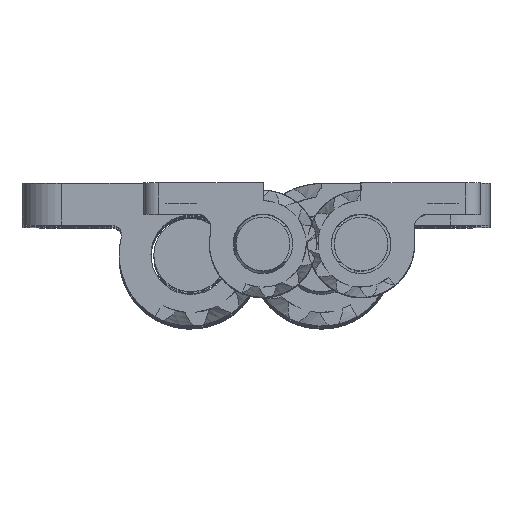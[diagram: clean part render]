
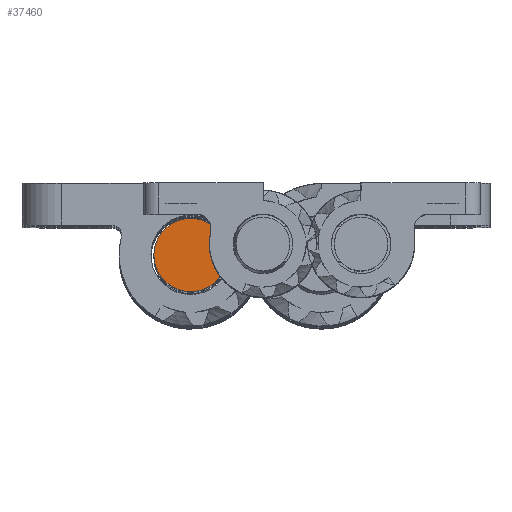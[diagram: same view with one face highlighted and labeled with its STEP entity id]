
A CAD part, top view. The second image highlights one B-rep face of the part: STEP entity #37460.
In plain terms, the highlighted planar face has unit normal (0, 0, 1).
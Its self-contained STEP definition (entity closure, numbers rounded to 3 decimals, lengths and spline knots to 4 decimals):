
#768=PLANE('',#39873);
#7062=FACE_OUTER_BOUND('',#9555,.T.);
#9555=EDGE_LOOP('',(#27666));
#13795=CIRCLE('',#39870,3.7);
#15469=VERTEX_POINT('',#68990);
#19834=EDGE_CURVE('',#15469,#15469,#13795,.T.);
#27666=ORIENTED_EDGE('',*,*,#19834,.T.);
#37460=ADVANCED_FACE('',(#7062),#768,.F.);
#39870=AXIS2_PLACEMENT_3D('',#68991,#42527,#42528);
#39873=AXIS2_PLACEMENT_3D('',#68997,#42535,#42536);
#42527=DIRECTION('center_axis',(0.,0.,1.));
#42528=DIRECTION('ref_axis',(-1.,0.,0.));
#42535=DIRECTION('center_axis',(0.,0.,-1.));
#42536=DIRECTION('ref_axis',(-1.,0.,0.));
#68990=CARTESIAN_POINT('',(3.7,0.,35.));
#68991=CARTESIAN_POINT('Origin',(0.,0.,35.));
#68997=CARTESIAN_POINT('Origin',(0.,0.,35.));
